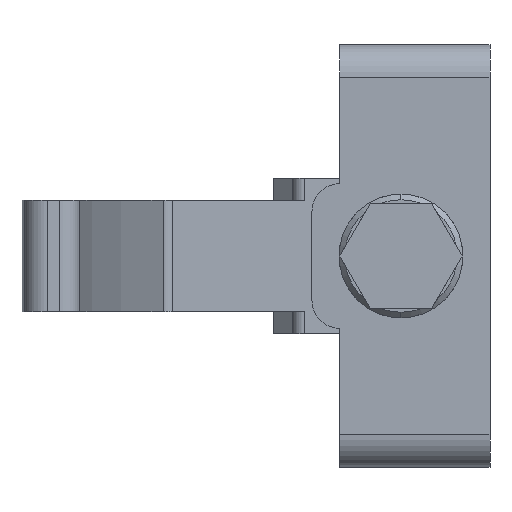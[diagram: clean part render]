
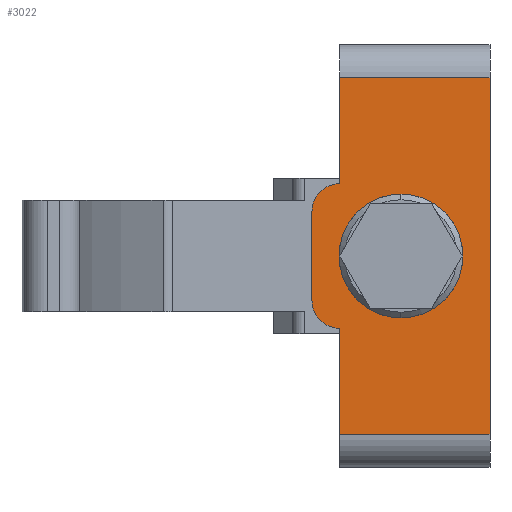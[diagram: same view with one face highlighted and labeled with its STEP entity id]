
A CAD part, left-side view. The second image highlights one B-rep face of the part: STEP entity #3022.
In plain terms, the highlighted planar face has unit normal (-1, 0, 0) as drawn and (0, 0, 1) by its records, which use the part's own axes.
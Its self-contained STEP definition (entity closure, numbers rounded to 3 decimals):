
#197 = VECTOR ( 'NONE', #5286, 1000. ) ;
#222 = AXIS2_PLACEMENT_3D ( 'NONE', #5349, #5362, #5363 ) ;
#902 = VERTEX_POINT ( 'NONE', #7982 ) ;
#959 = VERTEX_POINT ( 'NONE', #2771 ) ;
#1382 = EDGE_CURVE ( 'NONE', #7262, #959, #6993, .T. ) ;
#1749 = CARTESIAN_POINT ( 'NONE',  ( 0., 16., 85.5 ) ) ;
#1750 = DIRECTION ( 'NONE',  ( 0., 0., 1. ) ) ;
#1751 = DIRECTION ( 'NONE',  ( 1., 0., 0. ) ) ;
#2744 = EDGE_CURVE ( 'NONE', #7122, #7269, #5275, .T. ) ;
#2771 = CARTESIAN_POINT ( 'NONE',  ( 11.125, 16., 85.5 ) ) ;
#3022 = ADVANCED_FACE ( 'NONE', ( #5359, #5356 ), #5360, .F. ) ;
#3171 = EDGE_CURVE ( 'NONE', #959, #7262, #7525, .T. ) ;
#3173 = EDGE_CURVE ( 'NONE', #7134, #7265, #5889, .T. ) ;
#3174 = EDGE_CURVE ( 'NONE', #7265, #7269, #5895, .T. ) ;
#3175 = EDGE_CURVE ( 'NONE', #7122, #7147, #7530, .T. ) ;
#3176 = EDGE_CURVE ( 'NONE', #7147, #7323, #5899, .T. ) ;
#3177 = EDGE_CURVE ( 'NONE', #7323, #902, #7533, .T. ) ;
#3181 = EDGE_CURVE ( 'NONE', #7189, #902, #5918, .T. ) ;
#3183 = EDGE_CURVE ( 'NONE', #7189, #7134, #5919, .T. ) ;
#3269 = EDGE_LOOP ( 'NONE', ( #7879, #7854 ) ) ;
#3313 = EDGE_LOOP ( 'NONE', ( #7898, #7751, #7800, #7973, #7810, #7335, #7833, #7850 ) ) ;
#5275 = LINE ( 'NONE', #5276, #197 ) ;
#5276 = CARTESIAN_POINT ( 'NONE',  ( -38., 27., 85.5 ) ) ;
#5286 = DIRECTION ( 'NONE',  ( 1., 0., 0. ) ) ;
#5349 = CARTESIAN_POINT ( 'NONE',  ( -38., 27., 85.5 ) ) ;
#5356 = FACE_OUTER_BOUND ( 'NONE', #3313, .T. ) ;
#5359 = FACE_BOUND ( 'NONE', #3269, .T. ) ;
#5360 = PLANE ( 'NONE',  #222 ) ;
#5362 = DIRECTION ( 'NONE',  ( 0., 0., -1. ) ) ;
#5363 = DIRECTION ( 'NONE',  ( -1., 0., 0. ) ) ;
#5889 = LINE ( 'NONE', #5890, #7528 ) ;
#5890 = CARTESIAN_POINT ( 'NONE',  ( -38., 0., 85.5 ) ) ;
#5891 = CARTESIAN_POINT ( 'NONE',  ( 0., 16., 85.5 ) ) ;
#5892 = DIRECTION ( 'NONE',  ( 0., 0., 1. ) ) ;
#5893 = DIRECTION ( 'NONE',  ( 1., 0., 0. ) ) ;
#5894 = CARTESIAN_POINT ( 'NONE',  ( -8., 32., 85.5 ) ) ;
#5895 = LINE ( 'NONE', #5901, #7503 ) ;
#5899 = LINE ( 'NONE', #5894, #7531 ) ;
#5900 = DIRECTION ( 'NONE',  ( 1., 0., 0. ) ) ;
#5901 = CARTESIAN_POINT ( 'NONE',  ( 32., 27., 85.5 ) ) ;
#5902 = DIRECTION ( 'NONE',  ( 0., 1., 0. ) ) ;
#5905 = CARTESIAN_POINT ( 'NONE',  ( 8., 27., 85.5 ) ) ;
#5906 = DIRECTION ( 'NONE',  ( 0., 0., 1. ) ) ;
#5907 = DIRECTION ( 'NONE',  ( -1., 0., 0. ) ) ;
#5908 = DIRECTION ( 'NONE',  ( -1., 0., 0. ) ) ;
#5910 = CARTESIAN_POINT ( 'NONE',  ( -8., 27., 85.5 ) ) ;
#5911 = DIRECTION ( 'NONE',  ( 0., 0., 1. ) ) ;
#5912 = DIRECTION ( 'NONE',  ( -1., 0., 0. ) ) ;
#5917 = CARTESIAN_POINT ( 'NONE',  ( -38., 27., 85.5 ) ) ;
#5918 = LINE ( 'NONE', #5917, #7536 ) ;
#5919 = LINE ( 'NONE', #5920, #7537 ) ;
#5920 = CARTESIAN_POINT ( 'NONE',  ( -32., 27., 85.5 ) ) ;
#5924 = DIRECTION ( 'NONE',  ( 1., 0., 0. ) ) ;
#5930 = DIRECTION ( 'NONE',  ( 0., -1., 0. ) ) ;
#6002 = CARTESIAN_POINT ( 'NONE',  ( 13., 27., 85.5 ) ) ;
#6014 = CARTESIAN_POINT ( 'NONE',  ( -32., 0., 85.5 ) ) ;
#6027 = CARTESIAN_POINT ( 'NONE',  ( 8., 32., 85.5 ) ) ;
#6069 = CARTESIAN_POINT ( 'NONE',  ( -32., 27., 85.5 ) ) ;
#6141 = CARTESIAN_POINT ( 'NONE',  ( -11.125, 16., 85.5 ) ) ;
#6144 = CARTESIAN_POINT ( 'NONE',  ( 32., 0., 85.5 ) ) ;
#6148 = CARTESIAN_POINT ( 'NONE',  ( 32., 27., 85.5 ) ) ;
#6201 = CARTESIAN_POINT ( 'NONE',  ( -8., 32., 85.5 ) ) ;
#6979 = AXIS2_PLACEMENT_3D ( 'NONE', #1749, #1750, #1751 ) ;
#6993 = CIRCLE ( 'NONE', #6979, 11.125 ) ;
#7122 = VERTEX_POINT ( 'NONE', #6002 ) ;
#7134 = VERTEX_POINT ( 'NONE', #6014 ) ;
#7147 = VERTEX_POINT ( 'NONE', #6027 ) ;
#7189 = VERTEX_POINT ( 'NONE', #6069 ) ;
#7262 = VERTEX_POINT ( 'NONE', #6141 ) ;
#7265 = VERTEX_POINT ( 'NONE', #6144 ) ;
#7269 = VERTEX_POINT ( 'NONE', #6148 ) ;
#7323 = VERTEX_POINT ( 'NONE', #6201 ) ;
#7335 = ORIENTED_EDGE ( 'NONE', *, *, #3177, .T. ) ;
#7503 = VECTOR ( 'NONE', #5902, 1000. ) ;
#7525 = CIRCLE ( 'NONE', #7527, 11.125 ) ;
#7527 = AXIS2_PLACEMENT_3D ( 'NONE', #5891, #5892, #5893 ) ;
#7528 = VECTOR ( 'NONE', #5900, 1000. ) ;
#7530 = CIRCLE ( 'NONE', #7532, 5. ) ;
#7531 = VECTOR ( 'NONE', #5908, 1000. ) ;
#7532 = AXIS2_PLACEMENT_3D ( 'NONE', #5905, #5906, #5907 ) ;
#7533 = CIRCLE ( 'NONE', #7535, 5. ) ;
#7535 = AXIS2_PLACEMENT_3D ( 'NONE', #5910, #5911, #5912 ) ;
#7536 = VECTOR ( 'NONE', #5924, 1000. ) ;
#7537 = VECTOR ( 'NONE', #5930, 1000. ) ;
#7751 = ORIENTED_EDGE ( 'NONE', *, *, #3174, .T. ) ;
#7800 = ORIENTED_EDGE ( 'NONE', *, *, #2744, .F. ) ;
#7810 = ORIENTED_EDGE ( 'NONE', *, *, #3176, .T. ) ;
#7833 = ORIENTED_EDGE ( 'NONE', *, *, #3181, .F. ) ;
#7850 = ORIENTED_EDGE ( 'NONE', *, *, #3183, .T. ) ;
#7854 = ORIENTED_EDGE ( 'NONE', *, *, #1382, .F. ) ;
#7879 = ORIENTED_EDGE ( 'NONE', *, *, #3171, .F. ) ;
#7898 = ORIENTED_EDGE ( 'NONE', *, *, #3173, .T. ) ;
#7973 = ORIENTED_EDGE ( 'NONE', *, *, #3175, .T. ) ;
#7982 = CARTESIAN_POINT ( 'NONE',  ( -13., 27., 85.5 ) ) ;
